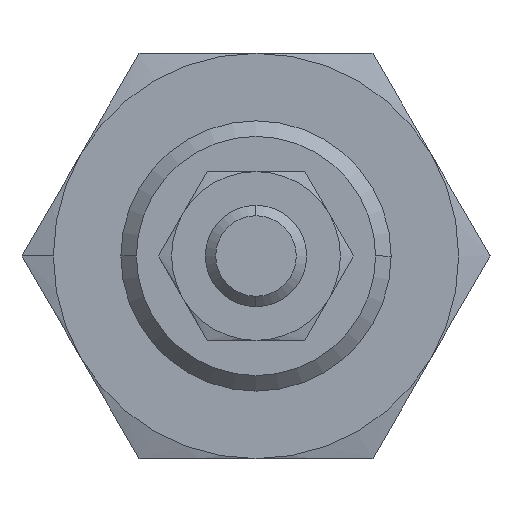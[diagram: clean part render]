
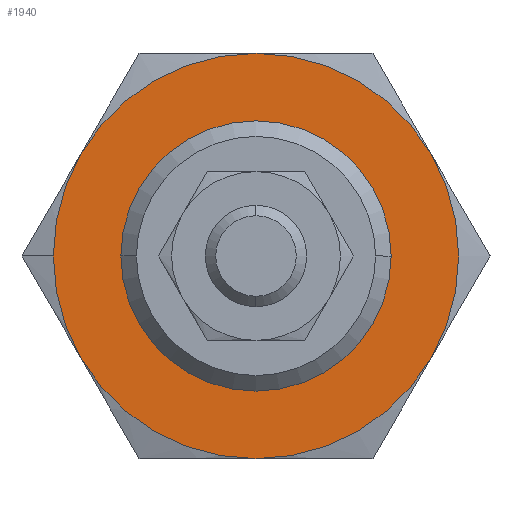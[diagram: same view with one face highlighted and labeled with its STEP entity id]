
A CAD part, left-side view. The second image highlights one B-rep face of the part: STEP entity #1940.
In plain terms, the highlighted planar face has unit normal (-1, 0, 0).
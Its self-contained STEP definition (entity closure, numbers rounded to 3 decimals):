
#42 = CARTESIAN_POINT ( 'NONE',  ( -13.5, -10.392, -6. ) ) ;
#65 = PLANE ( 'NONE',  #1139 ) ;
#78 = EDGE_CURVE ( 'NONE', #4282, #3208, #473, .T. ) ;
#115 = CARTESIAN_POINT ( 'NONE',  ( -13.5, 0., 0. ) ) ;
#119 = AXIS2_PLACEMENT_3D ( 'NONE', #907, #1271, #2531 ) ;
#216 = DIRECTION ( 'NONE',  ( 1., 0., 0. ) ) ;
#238 = CARTESIAN_POINT ( 'NONE',  ( -13.5, 0., 0. ) ) ;
#290 = CARTESIAN_POINT ( 'NONE',  ( -13.5, 0., 0. ) ) ;
#297 = EDGE_CURVE ( 'NONE', #3719, #1925, #3516, .T. ) ;
#336 = CARTESIAN_POINT ( 'NONE',  ( -13.5, 0., 0. ) ) ;
#378 = DIRECTION ( 'NONE',  ( 1., 0., 0. ) ) ;
#432 = EDGE_LOOP ( 'NONE', ( #4023, #1826 ) ) ;
#450 = AXIS2_PLACEMENT_3D ( 'NONE', #3968, #4279, #1303 ) ;
#459 = AXIS2_PLACEMENT_3D ( 'NONE', #1058, #378, #3358 ) ;
#473 = CIRCLE ( 'NONE', #2551, 8. ) ;
#688 = ORIENTED_EDGE ( 'NONE', *, *, #825, .F. ) ;
#699 = ORIENTED_EDGE ( 'NONE', *, *, #2566, .F. ) ;
#715 = CIRCLE ( 'NONE', #4246, 12. ) ;
#812 = VERTEX_POINT ( 'NONE', #1521 ) ;
#825 = EDGE_CURVE ( 'NONE', #3529, #3330, #3708, .T. ) ;
#907 = CARTESIAN_POINT ( 'NONE',  ( -13.5, 0., 0. ) ) ;
#915 = EDGE_CURVE ( 'NONE', #812, #3529, #3079, .T. ) ;
#927 = DIRECTION ( 'NONE',  ( 0., 1., 0. ) ) ;
#934 = CIRCLE ( 'NONE', #450, 12. ) ;
#955 = EDGE_CURVE ( 'NONE', #2922, #2152, #2333, .T. ) ;
#1016 = DIRECTION ( 'NONE',  ( 0., 1., 0. ) ) ;
#1058 = CARTESIAN_POINT ( 'NONE',  ( -13.5, 0., 0. ) ) ;
#1108 = EDGE_CURVE ( 'NONE', #3208, #4282, #3800, .T. ) ;
#1129 = CARTESIAN_POINT ( 'NONE',  ( -13.5, 0., 0. ) ) ;
#1139 = AXIS2_PLACEMENT_3D ( 'NONE', #1381, #1318, #2963 ) ;
#1224 = ORIENTED_EDGE ( 'NONE', *, *, #4150, .F. ) ;
#1271 = DIRECTION ( 'NONE',  ( 1., 0., 0. ) ) ;
#1295 = FACE_OUTER_BOUND ( 'NONE', #2284, .T. ) ;
#1303 = DIRECTION ( 'NONE',  ( 0., 1., 0. ) ) ;
#1318 = DIRECTION ( 'NONE',  ( -1., 0., 0. ) ) ;
#1381 = CARTESIAN_POINT ( 'NONE',  ( -13.5, 12., 0. ) ) ;
#1472 = CARTESIAN_POINT ( 'NONE',  ( -13.5, 10.392, -6. ) ) ;
#1500 = CARTESIAN_POINT ( 'NONE',  ( -13.5, -10.392, 6. ) ) ;
#1521 = CARTESIAN_POINT ( 'NONE',  ( -13.5, 10.392, 6. ) ) ;
#1529 = DIRECTION ( 'NONE',  ( 0., 1., 0. ) ) ;
#1587 = EDGE_CURVE ( 'NONE', #1925, #812, #934, .T. ) ;
#1608 = DIRECTION ( 'NONE',  ( 0., 1., 0. ) ) ;
#1766 = DIRECTION ( 'NONE',  ( 1., 0., 0. ) ) ;
#1826 = ORIENTED_EDGE ( 'NONE', *, *, #1108, .T. ) ;
#1843 = DIRECTION ( 'NONE',  ( 1., 0., 0. ) ) ;
#1849 = CARTESIAN_POINT ( 'NONE',  ( -13.5, 0., 0. ) ) ;
#1922 = CARTESIAN_POINT ( 'NONE',  ( -13.5, 8., 0. ) ) ;
#1925 = VERTEX_POINT ( 'NONE', #2938 ) ;
#1940 = ADVANCED_FACE ( 'NONE', ( #1295, #1971 ), #65, .T. ) ;
#1971 = FACE_BOUND ( 'NONE', #432, .T. ) ;
#1974 = DIRECTION ( 'NONE',  ( 1., 0., 0. ) ) ;
#2147 = DIRECTION ( 'NONE',  ( 0., 1., 0. ) ) ;
#2152 = VERTEX_POINT ( 'NONE', #3517 ) ;
#2284 = EDGE_LOOP ( 'NONE', ( #2520, #1224, #3103, #699, #688, #3129, #2488 ) ) ;
#2333 = CIRCLE ( 'NONE', #2879, 12. ) ;
#2418 = DIRECTION ( 'NONE',  ( 0., 1., 0. ) ) ;
#2481 = AXIS2_PLACEMENT_3D ( 'NONE', #336, #1974, #1016 ) ;
#2488 = ORIENTED_EDGE ( 'NONE', *, *, #1587, .F. ) ;
#2520 = ORIENTED_EDGE ( 'NONE', *, *, #297, .F. ) ;
#2531 = DIRECTION ( 'NONE',  ( 0., 1., 0. ) ) ;
#2551 = AXIS2_PLACEMENT_3D ( 'NONE', #115, #1843, #2147 ) ;
#2566 = EDGE_CURVE ( 'NONE', #3330, #2922, #3637, .T. ) ;
#2635 = CARTESIAN_POINT ( 'NONE',  ( -13.5, -8., 0. ) ) ;
#2874 = DIRECTION ( 'NONE',  ( 1., 0., 0. ) ) ;
#2879 = AXIS2_PLACEMENT_3D ( 'NONE', #290, #216, #1608 ) ;
#2922 = VERTEX_POINT ( 'NONE', #42 ) ;
#2938 = CARTESIAN_POINT ( 'NONE',  ( -13.5, 12., 0. ) ) ;
#2963 = DIRECTION ( 'NONE',  ( 0., 1., 0. ) ) ;
#3079 = CIRCLE ( 'NONE', #3641, 12. ) ;
#3103 = ORIENTED_EDGE ( 'NONE', *, *, #955, .F. ) ;
#3129 = ORIENTED_EDGE ( 'NONE', *, *, #915, .F. ) ;
#3167 = DIRECTION ( 'NONE',  ( 1., 0., 0. ) ) ;
#3208 = VERTEX_POINT ( 'NONE', #1922 ) ;
#3330 = VERTEX_POINT ( 'NONE', #1500 ) ;
#3358 = DIRECTION ( 'NONE',  ( 0., 1., 0. ) ) ;
#3516 = CIRCLE ( 'NONE', #2481, 12. ) ;
#3517 = CARTESIAN_POINT ( 'NONE',  ( -13.5, 0., -12. ) ) ;
#3529 = VERTEX_POINT ( 'NONE', #3928 ) ;
#3637 = CIRCLE ( 'NONE', #459, 12. ) ;
#3641 = AXIS2_PLACEMENT_3D ( 'NONE', #238, #2874, #927 ) ;
#3666 = AXIS2_PLACEMENT_3D ( 'NONE', #1129, #1766, #2418 ) ;
#3708 = CIRCLE ( 'NONE', #119, 12. ) ;
#3719 = VERTEX_POINT ( 'NONE', #1472 ) ;
#3800 = CIRCLE ( 'NONE', #3666, 8. ) ;
#3928 = CARTESIAN_POINT ( 'NONE',  ( -13.5, 0., 12. ) ) ;
#3968 = CARTESIAN_POINT ( 'NONE',  ( -13.5, 0., 0. ) ) ;
#4023 = ORIENTED_EDGE ( 'NONE', *, *, #78, .T. ) ;
#4150 = EDGE_CURVE ( 'NONE', #2152, #3719, #715, .T. ) ;
#4246 = AXIS2_PLACEMENT_3D ( 'NONE', #1849, #3167, #1529 ) ;
#4279 = DIRECTION ( 'NONE',  ( 1., 0., 0. ) ) ;
#4282 = VERTEX_POINT ( 'NONE', #2635 ) ;
